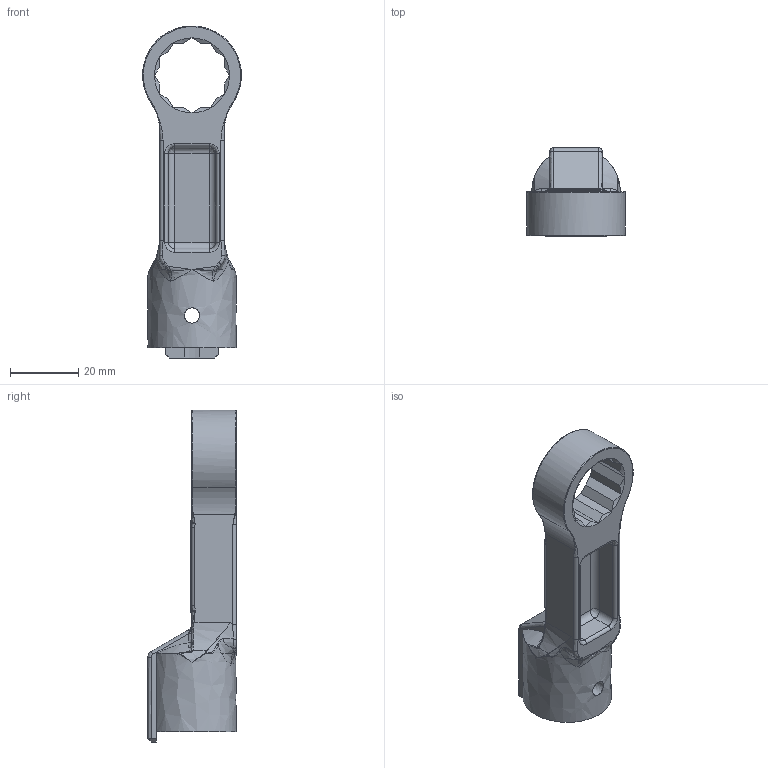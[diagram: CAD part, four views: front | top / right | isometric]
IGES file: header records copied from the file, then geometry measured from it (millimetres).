
Global section: file name: RH19DX19; native system: Autodesk Inventor 2016; preprocessor: unknown; author: q543; date: 20151110.165010; units: millimetre
Bounding box: 29 x 26 x 97.5 mm (x, y, z)
Volume: 18702.8 mm3; surface area: 9996.9 mm2
Topology: 1 solids, 1 shells, 222 faces, 556 edges, 314 vertices
Faces by surface type: bspline 222
